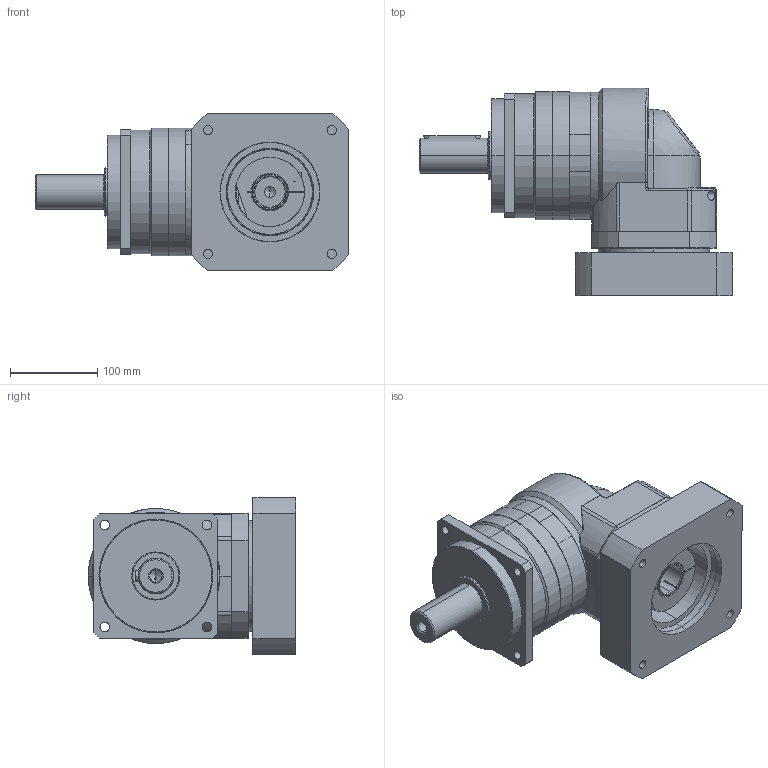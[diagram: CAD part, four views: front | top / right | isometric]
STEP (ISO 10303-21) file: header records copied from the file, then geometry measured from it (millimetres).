
FILE_DESCRIPTION (( 'STEP AP214' ), '1' );
FILE_NAME ('EVB142-L1-S2-P1 35-114.3-200-M12-82.STEP', '2025-01-16T05:59:33', ( '微软用户' ), ( '微软中国' ), 'SwSTEP 2.0', 'SolidWorks 2021', '' );
FILE_SCHEMA (( 'AUTOMOTIVE_DESIGN' ));
Length unit declared in the file: millimetre
Products named in the file (1): EVB142-L1-S2-P1 35-114.3-200-M12-82
Bounding box: 358.23 x 237.25 x 180 mm (x, y, z)
Surface area: 537717.9 mm2 (no closed solid volume)
Topology: 0 solids, 22 shells, 978 faces, 2317 edges, 1437 vertices
Faces by surface type: cylinder 339, plane 259, bspline 137, cone 117, sphere 64, torus 62
Entity records: 47743 total; most frequent: CARTESIAN_POINT 15963, ORIENTED_EDGE 4535, DIRECTION 4268, EDGE_CURVE 2295, AXIS2_PLACEMENT_3D 1766, VERTEX_POINT 1437, EDGE_LOOP 1125, FACE_OUTER_BOUND 978
